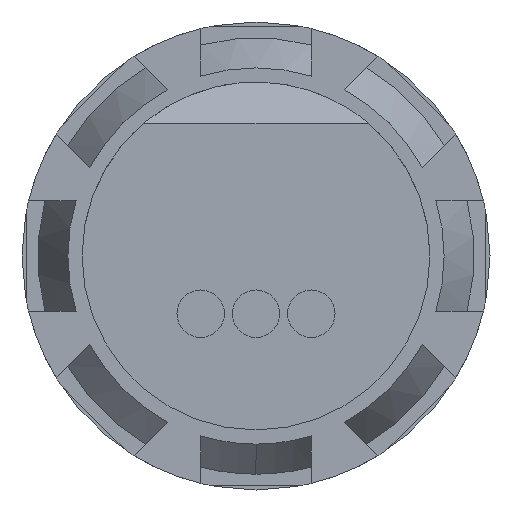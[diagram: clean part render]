
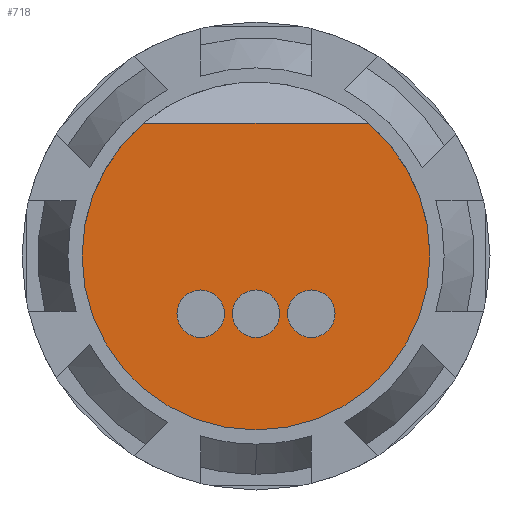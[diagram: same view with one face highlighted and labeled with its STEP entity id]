
A CAD part, front view. The second image highlights one B-rep face of the part: STEP entity #718.
In plain terms, the highlighted planar face has unit normal (0, -1, 0).
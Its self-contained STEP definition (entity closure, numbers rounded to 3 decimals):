
#7 = EDGE_CURVE ( 'NONE', #3521, #39, #1107, .T. ) ;
#25 = CARTESIAN_POINT ( 'NONE',  ( 3.5, -39.7, -3.65 ) ) ;
#33 = DIRECTION ( 'NONE',  ( 1., 0., 0. ) ) ;
#39 = VERTEX_POINT ( 'NONE', #2188 ) ;
#44 = DIRECTION ( 'NONE',  ( 1., 0., 0. ) ) ;
#56 = DIRECTION ( 'NONE',  ( 0., -1., 0. ) ) ;
#93 = EDGE_LOOP ( 'NONE', ( #2227, #2196 ) ) ;
#104 = DIRECTION ( 'NONE',  ( 0., -1., 0. ) ) ;
#109 = CARTESIAN_POINT ( 'NONE',  ( 11., -39.7, 0. ) ) ;
#161 = FACE_OUTER_BOUND ( 'NONE', #834, .T. ) ;
#194 = VERTEX_POINT ( 'NONE', #2180 ) ;
#294 = DIRECTION ( 'NONE',  ( 1., 0., 0. ) ) ;
#321 = CIRCLE ( 'NONE', #2310, 1.5 ) ;
#328 = AXIS2_PLACEMENT_3D ( 'NONE', #929, #2844, #1194 ) ;
#332 = EDGE_LOOP ( 'NONE', ( #577, #1285 ) ) ;
#404 = DIRECTION ( 'NONE',  ( -1., 0., 0. ) ) ;
#471 = AXIS2_PLACEMENT_3D ( 'NONE', #2505, #876, #2784 ) ;
#474 = VERTEX_POINT ( 'NONE', #975 ) ;
#481 = VERTEX_POINT ( 'NONE', #1804 ) ;
#487 = DIRECTION ( 'NONE',  ( 0., 1., 0. ) ) ;
#522 = VERTEX_POINT ( 'NONE', #2908 ) ;
#577 = ORIENTED_EDGE ( 'NONE', *, *, #2560, .F. ) ;
#594 = AXIS2_PLACEMENT_3D ( 'NONE', #1684, #56, #1952 ) ;
#617 = ORIENTED_EDGE ( 'NONE', *, *, #3090, .F. ) ;
#718 = ADVANCED_FACE ( 'NONE', ( #1694, #1610, #959, #161 ), #3043, .T. ) ;
#834 = EDGE_LOOP ( 'NONE', ( #3359, #3343, #1402, #2600 ) ) ;
#876 = DIRECTION ( 'NONE',  ( 0., -1., 0. ) ) ;
#895 = VERTEX_POINT ( 'NONE', #2911 ) ;
#929 = CARTESIAN_POINT ( 'NONE',  ( 0., -39.7, 0. ) ) ;
#959 = FACE_BOUND ( 'NONE', #93, .T. ) ;
#975 = CARTESIAN_POINT ( 'NONE',  ( 2., -39.7, -3.65 ) ) ;
#978 = CIRCLE ( 'NONE', #2467, 1.5 ) ;
#1107 = CIRCLE ( 'NONE', #3119, 1.5 ) ;
#1114 = VERTEX_POINT ( 'NONE', #1182 ) ;
#1182 = CARTESIAN_POINT ( 'NONE',  ( 5., -39.7, -3.65 ) ) ;
#1194 = DIRECTION ( 'NONE',  ( -1., 0., 0. ) ) ;
#1258 = AXIS2_PLACEMENT_3D ( 'NONE', #1726, #104, #1999 ) ;
#1285 = ORIENTED_EDGE ( 'NONE', *, *, #7, .F. ) ;
#1348 = DIRECTION ( 'NONE',  ( 1., 0., 0. ) ) ;
#1402 = ORIENTED_EDGE ( 'NONE', *, *, #1663, .F. ) ;
#1415 = VERTEX_POINT ( 'NONE', #109 ) ;
#1437 = EDGE_CURVE ( 'NONE', #1415, #481, #1731, .T. ) ;
#1456 = VECTOR ( 'NONE', #404, 1000. ) ;
#1488 = CARTESIAN_POINT ( 'NONE',  ( -11., -39.7, 8.4 ) ) ;
#1534 = CARTESIAN_POINT ( 'NONE',  ( 0., -39.7, 0. ) ) ;
#1610 = FACE_BOUND ( 'NONE', #2027, .T. ) ;
#1623 = CARTESIAN_POINT ( 'NONE',  ( -1.5, -39.7, -3.65 ) ) ;
#1659 = DIRECTION ( 'NONE',  ( 0., -1., 0. ) ) ;
#1663 = EDGE_CURVE ( 'NONE', #481, #522, #2712, .T. ) ;
#1666 = DIRECTION ( 'NONE',  ( 0., -1., 0. ) ) ;
#1684 = CARTESIAN_POINT ( 'NONE',  ( -11., -39.7, 0. ) ) ;
#1686 = CIRCLE ( 'NONE', #2686, 1.5 ) ;
#1694 = FACE_BOUND ( 'NONE', #332, .T. ) ;
#1717 = LINE ( 'NONE', #1488, #1456 ) ;
#1723 = AXIS2_PLACEMENT_3D ( 'NONE', #1534, #3448, #1806 ) ;
#1726 = CARTESIAN_POINT ( 'NONE',  ( -3.5, -39.7, -3.65 ) ) ;
#1731 = CIRCLE ( 'NONE', #328, 11. ) ;
#1783 = EDGE_CURVE ( 'NONE', #1935, #1415, #2453, .T. ) ;
#1804 = CARTESIAN_POINT ( 'NONE',  ( -11., -39.7, 0. ) ) ;
#1806 = DIRECTION ( 'NONE',  ( -1., 0., 0. ) ) ;
#1852 = CIRCLE ( 'NONE', #1258, 1.5 ) ;
#1918 = DIRECTION ( 'NONE',  ( 0., -1., 0. ) ) ;
#1935 = VERTEX_POINT ( 'NONE', #2468 ) ;
#1952 = DIRECTION ( 'NONE',  ( 1., 0., 0. ) ) ;
#1999 = DIRECTION ( 'NONE',  ( 1., 0., 0. ) ) ;
#2027 = EDGE_LOOP ( 'NONE', ( #617, #2720 ) ) ;
#2119 = CARTESIAN_POINT ( 'NONE',  ( 0., -39.7, 0. ) ) ;
#2168 = EDGE_CURVE ( 'NONE', #474, #1114, #321, .T. ) ;
#2180 = CARTESIAN_POINT ( 'NONE',  ( -2., -39.7, -3.65 ) ) ;
#2188 = CARTESIAN_POINT ( 'NONE',  ( 1.5, -39.7, -3.65 ) ) ;
#2193 = EDGE_CURVE ( 'NONE', #194, #895, #1686, .T. ) ;
#2196 = ORIENTED_EDGE ( 'NONE', *, *, #2444, .F. ) ;
#2227 = ORIENTED_EDGE ( 'NONE', *, *, #2193, .F. ) ;
#2310 = AXIS2_PLACEMENT_3D ( 'NONE', #3287, #1659, #33 ) ;
#2397 = DIRECTION ( 'NONE',  ( -1., 0., 0. ) ) ;
#2444 = EDGE_CURVE ( 'NONE', #895, #194, #1852, .T. ) ;
#2453 = CIRCLE ( 'NONE', #2641, 11. ) ;
#2467 = AXIS2_PLACEMENT_3D ( 'NONE', #25, #1918, #294 ) ;
#2468 = CARTESIAN_POINT ( 'NONE',  ( 7.102, -39.7, 8.4 ) ) ;
#2505 = CARTESIAN_POINT ( 'NONE',  ( 0., -39.7, -3.65 ) ) ;
#2560 = EDGE_CURVE ( 'NONE', #39, #3521, #2579, .T. ) ;
#2579 = CIRCLE ( 'NONE', #471, 1.5 ) ;
#2600 = ORIENTED_EDGE ( 'NONE', *, *, #1437, .F. ) ;
#2641 = AXIS2_PLACEMENT_3D ( 'NONE', #2119, #487, #2397 ) ;
#2686 = AXIS2_PLACEMENT_3D ( 'NONE', #3299, #1666, #44 ) ;
#2712 = CIRCLE ( 'NONE', #1723, 11. ) ;
#2720 = ORIENTED_EDGE ( 'NONE', *, *, #2168, .F. ) ;
#2784 = DIRECTION ( 'NONE',  ( 1., 0., 0. ) ) ;
#2844 = DIRECTION ( 'NONE',  ( 0., 1., 0. ) ) ;
#2908 = CARTESIAN_POINT ( 'NONE',  ( -7.102, -39.7, 8.4 ) ) ;
#2911 = CARTESIAN_POINT ( 'NONE',  ( -5., -39.7, -3.65 ) ) ;
#2987 = DIRECTION ( 'NONE',  ( 0., -1., 0. ) ) ;
#3043 = PLANE ( 'NONE',  #594 ) ;
#3090 = EDGE_CURVE ( 'NONE', #1114, #474, #978, .T. ) ;
#3119 = AXIS2_PLACEMENT_3D ( 'NONE', #3259, #2987, #1348 ) ;
#3202 = EDGE_CURVE ( 'NONE', #1935, #522, #1717, .T. ) ;
#3259 = CARTESIAN_POINT ( 'NONE',  ( 0., -39.7, -3.65 ) ) ;
#3287 = CARTESIAN_POINT ( 'NONE',  ( 3.5, -39.7, -3.65 ) ) ;
#3299 = CARTESIAN_POINT ( 'NONE',  ( -3.5, -39.7, -3.65 ) ) ;
#3343 = ORIENTED_EDGE ( 'NONE', *, *, #3202, .T. ) ;
#3359 = ORIENTED_EDGE ( 'NONE', *, *, #1783, .F. ) ;
#3448 = DIRECTION ( 'NONE',  ( 0., 1., 0. ) ) ;
#3521 = VERTEX_POINT ( 'NONE', #1623 ) ;
